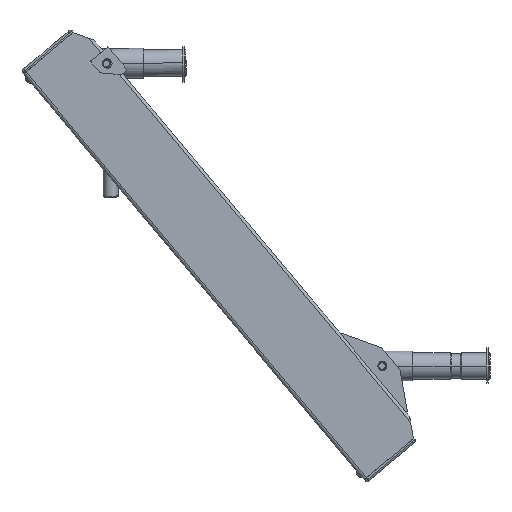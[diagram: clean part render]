
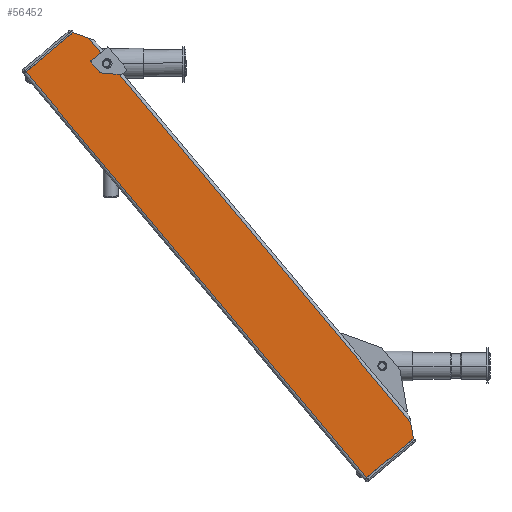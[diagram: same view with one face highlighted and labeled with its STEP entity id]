
A CAD part, left-side view. The second image highlights one B-rep face of the part: STEP entity #56452.
In plain terms, the highlighted planar face has unit normal (-1, 0, 0).
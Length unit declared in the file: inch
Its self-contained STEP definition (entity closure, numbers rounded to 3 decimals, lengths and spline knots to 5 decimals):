
#1129 = DIRECTION ( 'NONE',  ( 0., 0.5, -0.866 ) ) ;
#1300 = DIRECTION ( 'NONE',  ( 0., 1., 0. ) ) ;
#1962 = DIRECTION ( 'NONE',  ( 0., 0., 1. ) ) ;
#2502 = CARTESIAN_POINT ( 'NONE',  ( 0., 0.1, -8.27369 ) ) ;
#3170 = EDGE_CURVE ( 'NONE', #25144, #55354, #44495, .T. ) ;
#3341 = VECTOR ( 'NONE', #23241, 39.37008 ) ;
#3791 = PLANE ( 'NONE',  #52562 ) ;
#4284 = LINE ( 'NONE', #52388, #3341 ) ;
#4315 = CARTESIAN_POINT ( 'NONE',  ( 0., 2.4, -8.75 ) ) ;
#4978 = EDGE_CURVE ( 'NONE', #19799, #36448, #7674, .T. ) ;
#5862 = CARTESIAN_POINT ( 'NONE',  ( 0., 0.1, 8.27369 ) ) ;
#5933 = ORIENTED_EDGE ( 'NONE', *, *, #11448, .F. ) ;
#5945 = CARTESIAN_POINT ( 'NONE',  ( 0., 0.12085, 7.125 ) ) ;
#6467 = EDGE_CURVE ( 'NONE', #33206, #38071, #42743, .T. ) ;
#7057 = CIRCLE ( 'NONE', #15004, 0.1405 ) ;
#7587 = DIRECTION ( 'NONE',  ( 1., 0., 0. ) ) ;
#7674 = CIRCLE ( 'NONE', #57234, 0.1405 ) ;
#7703 = CARTESIAN_POINT ( 'NONE',  ( 0., 0.1, 7.125 ) ) ;
#9240 = LINE ( 'NONE', #17952, #55635 ) ;
#9512 = ORIENTED_EDGE ( 'NONE', *, *, #43070, .T. ) ;
#10061 = ORIENTED_EDGE ( 'NONE', *, *, #25735, .F. ) ;
#10103 = ORIENTED_EDGE ( 'NONE', *, *, #54595, .T. ) ;
#10698 = CARTESIAN_POINT ( 'NONE',  ( 0., 2.4, 8.75 ) ) ;
#11448 = EDGE_CURVE ( 'NONE', #52231, #41669, #9240, .T. ) ;
#12516 = VERTEX_POINT ( 'NONE', #32452 ) ;
#13590 = VERTEX_POINT ( 'NONE', #37055 ) ;
#15004 = AXIS2_PLACEMENT_3D ( 'NONE', #31203, #7587, #45451 ) ;
#15105 = EDGE_CURVE ( 'NONE', #12516, #38071, #35098, .T. ) ;
#17680 = ORIENTED_EDGE ( 'NONE', *, *, #3170, .T. ) ;
#17710 = ORIENTED_EDGE ( 'NONE', *, *, #4978, .T. ) ;
#17791 = DIRECTION ( 'NONE',  ( -1., 0., 0. ) ) ;
#17952 = CARTESIAN_POINT ( 'NONE',  ( 0., 2.4, 8.75 ) ) ;
#18315 = LINE ( 'NONE', #4315, #40175 ) ;
#19123 = VECTOR ( 'NONE', #39150, 39.37008 ) ;
#19384 = VERTEX_POINT ( 'NONE', #7703 ) ;
#19468 = CARTESIAN_POINT ( 'NONE',  ( 0., 0.375, -8.75 ) ) ;
#19799 = VERTEX_POINT ( 'NONE', #43075 ) ;
#22961 = DIRECTION ( 'NONE',  ( 0., 0., 1. ) ) ;
#23241 = DIRECTION ( 'NONE',  ( 0., -1., 0. ) ) ;
#24025 = ORIENTED_EDGE ( 'NONE', *, *, #27780, .T. ) ;
#25144 = VERTEX_POINT ( 'NONE', #55404 ) ;
#25271 = ORIENTED_EDGE ( 'NONE', *, *, #50066, .T. ) ;
#25735 = EDGE_CURVE ( 'NONE', #41669, #55354, #59726, .T. ) ;
#25780 = CARTESIAN_POINT ( 'NONE',  ( 0., 0.1, -8.75 ) ) ;
#25921 = ORIENTED_EDGE ( 'NONE', *, *, #15105, .T. ) ;
#27780 = EDGE_CURVE ( 'NONE', #36448, #25144, #4284, .T. ) ;
#28951 = LINE ( 'NONE', #5945, #29714 ) ;
#29023 = VECTOR ( 'NONE', #36152, 39.37008 ) ;
#29714 = VECTOR ( 'NONE', #1300, 39.37008 ) ;
#31165 = CARTESIAN_POINT ( 'NONE',  ( 0., 0.12085, 7.125 ) ) ;
#31203 = CARTESIAN_POINT ( 'NONE',  ( 0., 0.185, 7.25 ) ) ;
#31483 = CARTESIAN_POINT ( 'NONE',  ( 0., 0.375, 8.75 ) ) ;
#32452 = CARTESIAN_POINT ( 'NONE',  ( 0., 2.4, -8.75 ) ) ;
#33206 = VERTEX_POINT ( 'NONE', #2502 ) ;
#34513 = VERTEX_POINT ( 'NONE', #31165 ) ;
#34794 = DIRECTION ( 'NONE',  ( 0., 0., 1. ) ) ;
#35098 = LINE ( 'NONE', #49348, #19123 ) ;
#35687 = EDGE_CURVE ( 'NONE', #12516, #52231, #18315, .T. ) ;
#36152 = DIRECTION ( 'NONE',  ( 0., -0.5, -0.866 ) ) ;
#36448 = VERTEX_POINT ( 'NONE', #43036 ) ;
#36638 = VECTOR ( 'NONE', #1962, 39.37008 ) ;
#37055 = CARTESIAN_POINT ( 'NONE',  ( 0., 0.185, 7.1095 ) ) ;
#37563 = ORIENTED_EDGE ( 'NONE', *, *, #53752, .T. ) ;
#38071 = VERTEX_POINT ( 'NONE', #48132 ) ;
#38085 = VECTOR ( 'NONE', #34794, 39.37008 ) ;
#38574 = AXIS2_PLACEMENT_3D ( 'NONE', #57322, #48041, #44006 ) ;
#39139 = CARTESIAN_POINT ( 'NONE',  ( 0., 0.375, 8.75 ) ) ;
#39150 = DIRECTION ( 'NONE',  ( 0., -1., 0. ) ) ;
#39343 = EDGE_LOOP ( 'NONE', ( #10103, #37563, #9512, #17710, #24025, #17680, #10061, #5933, #43731, #25921, #49579, #25271 ) ) ;
#40175 = VECTOR ( 'NONE', #22961, 39.37008 ) ;
#41669 = VERTEX_POINT ( 'NONE', #39139 ) ;
#42743 = LINE ( 'NONE', #19468, #49227 ) ;
#43036 = CARTESIAN_POINT ( 'NONE',  ( 0., 0.12085, 7.375 ) ) ;
#43070 = EDGE_CURVE ( 'NONE', #13590, #19799, #7057, .T. ) ;
#43075 = CARTESIAN_POINT ( 'NONE',  ( 0., 0.185, 7.3905 ) ) ;
#43487 = LINE ( 'NONE', #25780, #38085 ) ;
#43731 = ORIENTED_EDGE ( 'NONE', *, *, #35687, .F. ) ;
#44006 = DIRECTION ( 'NONE',  ( 0., 0., -1. ) ) ;
#44495 = LINE ( 'NONE', #49760, #36638 ) ;
#45451 = DIRECTION ( 'NONE',  ( 0., 0., -1. ) ) ;
#46030 = FACE_OUTER_BOUND ( 'NONE', #39343, .T. ) ;
#46789 = DIRECTION ( 'NONE',  ( 0., -1., 0. ) ) ;
#48041 = DIRECTION ( 'NONE',  ( 1., 0., 0. ) ) ;
#48132 = CARTESIAN_POINT ( 'NONE',  ( 0., 0.375, -8.75 ) ) ;
#49227 = VECTOR ( 'NONE', #1129, 39.37008 ) ;
#49348 = CARTESIAN_POINT ( 'NONE',  ( 0., 2.4, -8.75 ) ) ;
#49579 = ORIENTED_EDGE ( 'NONE', *, *, #6467, .F. ) ;
#49612 = DIRECTION ( 'NONE',  ( 0., 0., -1. ) ) ;
#49760 = CARTESIAN_POINT ( 'NONE',  ( 0., 0.1, -8.75 ) ) ;
#49919 = CARTESIAN_POINT ( 'NONE',  ( 0., 0.185, 7.25 ) ) ;
#50066 = EDGE_CURVE ( 'NONE', #33206, #19384, #43487, .T. ) ;
#52231 = VERTEX_POINT ( 'NONE', #10698 ) ;
#52388 = CARTESIAN_POINT ( 'NONE',  ( 0., -0.06488, 7.375 ) ) ;
#52562 = AXIS2_PLACEMENT_3D ( 'NONE', #55930, #17791, #60605 ) ;
#53752 = EDGE_CURVE ( 'NONE', #34513, #13590, #60391, .T. ) ;
#54250 = DIRECTION ( 'NONE',  ( 1., 0., 0. ) ) ;
#54595 = EDGE_CURVE ( 'NONE', #19384, #34513, #28951, .T. ) ;
#55354 = VERTEX_POINT ( 'NONE', #5862 ) ;
#55404 = CARTESIAN_POINT ( 'NONE',  ( 0., 0.1, 7.375 ) ) ;
#55635 = VECTOR ( 'NONE', #46789, 39.37008 ) ;
#55930 = CARTESIAN_POINT ( 'NONE',  ( 0., 2.4, -8.75 ) ) ;
#56452 = ADVANCED_FACE ( 'NONE', ( #46030 ), #3791, .T. ) ;
#57234 = AXIS2_PLACEMENT_3D ( 'NONE', #49919, #54250, #49612 ) ;
#57322 = CARTESIAN_POINT ( 'NONE',  ( 0., 0.185, 7.25 ) ) ;
#59726 = LINE ( 'NONE', #31483, #29023 ) ;
#60391 = CIRCLE ( 'NONE', #38574, 0.1405 ) ;
#60605 = DIRECTION ( 'NONE',  ( 0., -1., 0. ) ) ;
